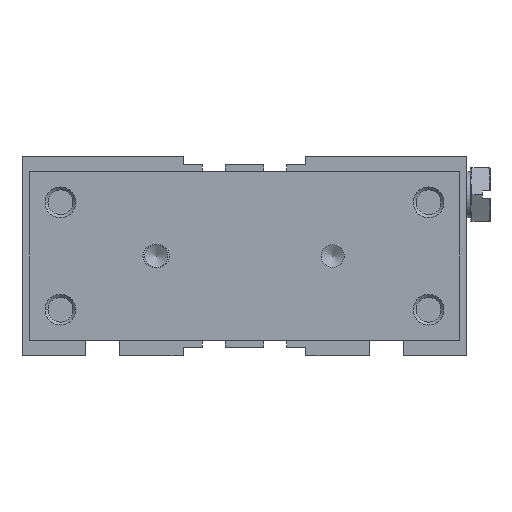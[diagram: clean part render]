
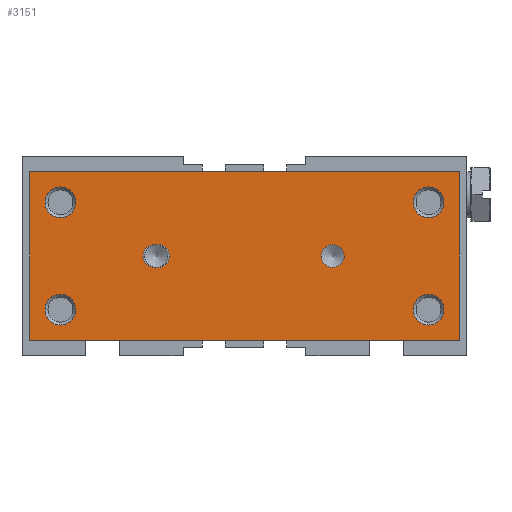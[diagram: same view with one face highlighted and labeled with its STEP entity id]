
A CAD part, left-side view. The second image highlights one B-rep face of the part: STEP entity #3151.
In plain terms, the highlighted planar face has unit normal (-1, 0, 0) as drawn and (0, 0, 1) by its records, which use the part's own axes.
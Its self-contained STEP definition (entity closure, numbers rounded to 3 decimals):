
#348=LINE('',#5122,#570);
#352=LINE('',#5131,#574);
#355=LINE('',#5137,#577);
#358=LINE('',#5143,#580);
#360=LINE('',#5170,#582);
#361=LINE('',#5174,#583);
#570=VECTOR('',#4217,1000.);
#574=VECTOR('',#4223,1000.);
#577=VECTOR('',#4228,1000.);
#580=VECTOR('',#4233,1000.);
#582=VECTOR('',#4261,1000.);
#583=VECTOR('',#4264,1000.);
#1163=ORIENTED_EDGE('',*,*,#1701,.F.);
#1164=ORIENTED_EDGE('',*,*,#1702,.F.);
#1165=ORIENTED_EDGE('',*,*,#1703,.F.);
#1166=ORIENTED_EDGE('',*,*,#1704,.F.);
#1167=ORIENTED_EDGE('',*,*,#1705,.F.);
#1168=ORIENTED_EDGE('',*,*,#1706,.F.);
#1169=ORIENTED_EDGE('',*,*,#1707,.F.);
#1170=ORIENTED_EDGE('',*,*,#1708,.F.);
#1171=ORIENTED_EDGE('',*,*,#1709,.F.);
#1172=ORIENTED_EDGE('',*,*,#1684,.T.);
#1173=ORIENTED_EDGE('',*,*,#1688,.T.);
#1174=ORIENTED_EDGE('',*,*,#1691,.T.);
#1175=ORIENTED_EDGE('',*,*,#1694,.T.);
#1684=EDGE_CURVE('',#2031,#2032,#348,.T.);
#1688=EDGE_CURVE('',#2032,#2035,#352,.T.);
#1691=EDGE_CURVE('',#2035,#2037,#355,.T.);
#1694=EDGE_CURVE('',#2037,#2031,#358,.T.);
#1701=EDGE_CURVE('',#2044,#2044,#2235,.T.);
#1702=EDGE_CURVE('',#2045,#2045,#2236,.T.);
#1703=EDGE_CURVE('',#2046,#2046,#2237,.T.);
#1704=EDGE_CURVE('',#2047,#2047,#2238,.T.);
#1705=EDGE_CURVE('',#2048,#2048,#2239,.T.);
#1706=EDGE_CURVE('',#2049,#2050,#2240,.T.);
#1707=EDGE_CURVE('',#2051,#2049,#360,.T.);
#1708=EDGE_CURVE('',#2052,#2051,#2241,.T.);
#1709=EDGE_CURVE('',#2050,#2052,#361,.T.);
#2031=VERTEX_POINT('',#5123);
#2032=VERTEX_POINT('',#5124);
#2035=VERTEX_POINT('',#5132);
#2037=VERTEX_POINT('',#5138);
#2044=VERTEX_POINT('',#5158);
#2045=VERTEX_POINT('',#5160);
#2046=VERTEX_POINT('',#5162);
#2047=VERTEX_POINT('',#5164);
#2048=VERTEX_POINT('',#5166);
#2049=VERTEX_POINT('',#5168);
#2050=VERTEX_POINT('',#5169);
#2051=VERTEX_POINT('',#5171);
#2052=VERTEX_POINT('',#5173);
#2235=CIRCLE('',#3492,2.);
#2236=CIRCLE('',#3493,2.);
#2237=CIRCLE('',#3494,2.);
#2238=CIRCLE('',#3495,2.);
#2239=CIRCLE('',#3496,1.5);
#2240=CIRCLE('',#3497,1.5);
#2241=CIRCLE('',#3498,1.5);
#2491=EDGE_LOOP('',(#1163));
#2492=EDGE_LOOP('',(#1164));
#2493=EDGE_LOOP('',(#1165));
#2494=EDGE_LOOP('',(#1166));
#2495=EDGE_LOOP('',(#1167));
#2496=EDGE_LOOP('',(#1168,#1169,#1170,#1171));
#2497=EDGE_LOOP('',(#1172,#1173,#1174,#1175));
#2815=FACE_BOUND('',#2491,.T.);
#2816=FACE_BOUND('',#2492,.T.);
#2817=FACE_BOUND('',#2493,.T.);
#2818=FACE_BOUND('',#2494,.T.);
#2819=FACE_BOUND('',#2495,.T.);
#2820=FACE_BOUND('',#2496,.T.);
#2821=FACE_BOUND('',#2497,.T.);
#2988=PLANE('',#3491);
#3151=ADVANCED_FACE('',(#2815,#2816,#2817,#2818,#2819,#2820,#2821),#2988,
 .T.);
#3491=AXIS2_PLACEMENT_3D('',#5156,#4247,#4248);
#3492=AXIS2_PLACEMENT_3D('',#5157,#4249,#4250);
#3493=AXIS2_PLACEMENT_3D('',#5159,#4251,#4252);
#3494=AXIS2_PLACEMENT_3D('',#5161,#4253,#4254);
#3495=AXIS2_PLACEMENT_3D('',#5163,#4255,#4256);
#3496=AXIS2_PLACEMENT_3D('',#5165,#4257,#4258);
#3497=AXIS2_PLACEMENT_3D('',#5167,#4259,#4260);
#3498=AXIS2_PLACEMENT_3D('',#5172,#4262,#4263);
#4217=DIRECTION('',(0.,-1.,0.));
#4223=DIRECTION('',(1.,0.,0.));
#4228=DIRECTION('',(0.,1.,0.));
#4233=DIRECTION('',(-1.,0.,0.));
#4247=DIRECTION('',(0.,0.,1.));
#4248=DIRECTION('',(1.,0.,0.));
#4249=DIRECTION('',(0.,0.,1.));
#4250=DIRECTION('',(1.,0.,0.));
#4251=DIRECTION('',(0.,0.,1.));
#4252=DIRECTION('',(1.,0.,0.));
#4253=DIRECTION('',(0.,0.,1.));
#4254=DIRECTION('',(1.,0.,0.));
#4255=DIRECTION('',(0.,0.,1.));
#4256=DIRECTION('',(1.,0.,0.));
#4257=DIRECTION('',(0.,0.,1.));
#4258=DIRECTION('',(1.,0.,0.));
#4259=DIRECTION('',(0.,0.,1.));
#4260=DIRECTION('',(1.,0.,0.));
#4261=DIRECTION('',(0.,1.,0.));
#4262=DIRECTION('',(0.,0.,1.));
#4263=DIRECTION('',(1.,0.,0.));
#4264=DIRECTION('',(0.,-1.,0.));
#5122=CARTESIAN_POINT('',(-11.,28.,13.));
#5123=CARTESIAN_POINT('',(-11.,28.,13.));
#5124=CARTESIAN_POINT('',(-11.,-28.,13.));
#5131=CARTESIAN_POINT('',(-11.,-28.,13.));
#5132=CARTESIAN_POINT('',(11.,-28.,13.));
#5137=CARTESIAN_POINT('',(11.,-28.,13.));
#5138=CARTESIAN_POINT('',(11.,28.,13.));
#5143=CARTESIAN_POINT('',(11.,28.,13.));
#5156=CARTESIAN_POINT('',(0.,0.,13.));
#5157=CARTESIAN_POINT('',(-7.,24.,13.));
#5158=CARTESIAN_POINT('',(-5.,24.,13.));
#5159=CARTESIAN_POINT('',(7.,24.,13.));
#5160=CARTESIAN_POINT('',(9.,24.,13.));
#5161=CARTESIAN_POINT('',(-7.,-24.,13.));
#5162=CARTESIAN_POINT('',(-5.,-24.,13.));
#5163=CARTESIAN_POINT('',(7.,-24.,13.));
#5164=CARTESIAN_POINT('',(9.,-24.,13.));
#5165=CARTESIAN_POINT('',(0.,-11.5,13.));
#5166=CARTESIAN_POINT('',(1.5,-11.5,13.));
#5167=CARTESIAN_POINT('',(0.,11.75,13.));
#5168=CARTESIAN_POINT('',(1.5,11.75,13.));
#5169=CARTESIAN_POINT('',(-1.5,11.75,13.));
#5170=CARTESIAN_POINT('',(1.5,11.25,13.));
#5171=CARTESIAN_POINT('',(1.5,11.25,13.));
#5172=CARTESIAN_POINT('',(0.,11.25,13.));
#5173=CARTESIAN_POINT('',(-1.5,11.25,13.));
#5174=CARTESIAN_POINT('',(-1.5,11.75,13.));
